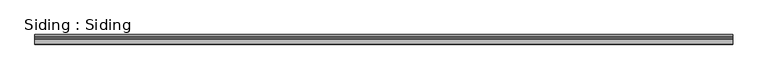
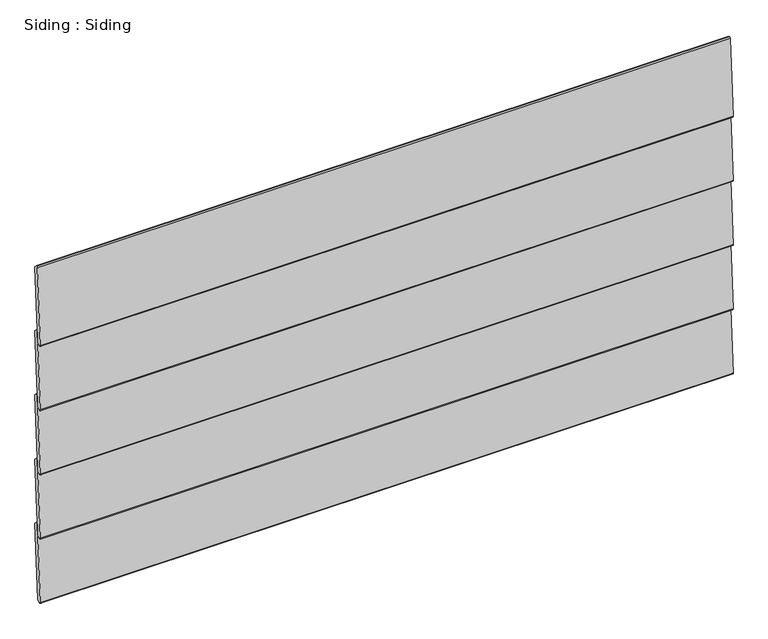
"""IFC4 building model written with IfcOpenShell, lengths in millimetres: proxy geometry, Siding : Siding."""

import ifcopenshell
import ifcopenshell.guid

model = None  # the IFC model being written
_history = None  # IfcOwnerHistory: only IFC2X3 demands one
_inside = {}  # id of a spatial element -> (the spatial element, [elements in it])
_under = {}  # id of a project, library or spatial element -> (it, [spatial elements below it])
_declared = {}  # id of a project -> (the project, [libraries it declares])
_typed = {}  # id of a type object -> (the type object, [elements of that type])
_made_of = {}  # id of a material, layer set ... -> (it, [elements and type objects made of it])


def new_model(schema):
    """Start an empty IFC model of exactly this schema.

    Asked for "IFC4X3", IfcOpenShell would pick the latest addendum, in which some entities
    have other attributes; the version numbers below select the first issue.
    IFC2X3 requires an IfcOwnerHistory on every rooted entity: one is made here for all.
    """
    global model, _history
    if schema == "IFC4X3":
        model = ifcopenshell.file(schema_version=(4, 3, 0, 0))
    else:
        model = ifcopenshell.file(schema=schema)
    _inside.clear()
    _under.clear()
    _declared.clear()
    _typed.clear()
    _made_of.clear()
    _history = None
    if model.schema == "IFC2X3":
        org = make("IfcOrganization", Name="unknown")
        user = make(
            "IfcPersonAndOrganization",
            ThePerson=make("IfcPerson", FamilyName="unknown"),
            TheOrganization=org,
        )
        app = make(
            "IfcApplication",
            ApplicationDeveloper=org,
            Version="unknown",
            ApplicationFullName="unknown",
            ApplicationIdentifier="unknown",
        )
        _history = make(
            "IfcOwnerHistory",
            OwningUser=user,
            OwningApplication=app,
            ChangeAction="ADDED",
            CreationDate=0,
        )
    return model


def make(cls, **values):
    """One entity of the class cls with the attributes given. An attribute that is None is left unset."""
    return model.create_entity(
        cls, **{name: value for name, value in values.items() if value is not None}
    )


def rooted(cls, **values):
    """An entity with a GlobalId (a new one), such as an element, a storey or a relation."""
    return make(cls, GlobalId=ifcopenshell.guid.new(), OwnerHistory=_history, **values)


def si_unit(unit_type, name, prefix=None):
    """IfcSIUnit, for example si_unit("LENGTHUNIT", "METRE", prefix="MILLI")."""
    return make("IfcSIUnit", UnitType=unit_type, Prefix=prefix, Name=name)


def assignment(units):
    """IfcUnitAssignment: the units of a project."""
    return None if units is None else make("IfcUnitAssignment", Units=units)


def point(xyz):
    """IfcCartesianPoint."""
    return None if xyz is None else make("IfcCartesianPoint", Coordinates=xyz)


def direction(xyz):
    """IfcDirection."""
    return None if xyz is None else make("IfcDirection", DirectionRatios=xyz)


def frame(location, z_axis=None, x_axis=None):
    """IfcAxis2Placement3D, a coordinate frame: its origin and axes. An axis left out is left unset."""
    return make(
        "IfcAxis2Placement3D",
        Location=point(location),
        Axis=direction(z_axis),
        RefDirection=direction(x_axis),
    )


def frame_2d(location, x_axis=None):
    """IfcAxis2Placement2D, a coordinate frame in the plane: its origin and x axis."""
    return make(
        "IfcAxis2Placement2D", Location=point(location), RefDirection=direction(x_axis)
    )


def origin():
    """The frame at (0, 0, 0) with its axes left unset."""
    return frame((0.0, 0.0, 0.0))


def place(relative_to, where):
    """IfcLocalPlacement: puts the frame where relative to a parent placement (None: the world)."""
    return make(
        "IfcLocalPlacement", PlacementRelTo=relative_to, RelativePlacement=where
    )


def context(
    kind, dimensions, precision=None, world=None, true_north=None, identifier=None
):
    """IfcGeometricRepresentationContext, for example the 3D "Model" context."""
    return make(
        "IfcGeometricRepresentationContext",
        ContextIdentifier=identifier,
        ContextType=kind,
        CoordinateSpaceDimension=dimensions,
        Precision=precision,
        WorldCoordinateSystem=world,
        TrueNorth=true_north,
    )


def project(units=None, contexts=None):
    """IfcProject with its units and contexts."""
    return rooted(
        "IfcProject",
        Name="project",
        RepresentationContexts=contexts,
        UnitsInContext=assignment(units),
    )


def spatial(cls, under=None, at=None, **own):
    """A site, building, storey or space (cls), placed at a placement, below another one or the project."""
    s = rooted(cls, ObjectPlacement=at, **own)
    if under is not None:
        _under.setdefault(under.id(), (under, []))[1].append(s)
    return s


def polyline(points):
    """IfcPolyline through the points."""
    return make("IfcPolyline", Points=[point(p) for p in points])


def circle_curve(where, radius):
    """IfcCircle in the frame where."""
    return make("IfcCircle", Position=where, Radius=radius)


def trimmed(basis, trim1, trim2, sense, master):
    """IfcTrimmedCurve: the piece of a basis curve between two trims."""
    return make(
        "IfcTrimmedCurve",
        BasisCurve=basis,
        Trim1=trim1,
        Trim2=trim2,
        SenseAgreement=sense,
        MasterRepresentation=master,
    )


def segment(curve, same_sense, transition):
    """IfcCompositeCurveSegment."""
    return make(
        "IfcCompositeCurveSegment",
        Transition=transition,
        SameSense=same_sense,
        ParentCurve=curve,
    )


def composite_curve(segments, self_intersect=None):
    """IfcCompositeCurve: segments joined end to end."""
    return make("IfcCompositeCurve", Segments=segments, SelfIntersect=self_intersect)


def outline(outer, holes=None, kind="AREA"):
    """IfcArbitraryClosedProfileDef: a profile drawn as a closed curve; with holes, ...WithVoids."""
    if holes is None:
        return make("IfcArbitraryClosedProfileDef", ProfileType=kind, OuterCurve=outer)
    return make(
        "IfcArbitraryProfileDefWithVoids",
        ProfileType=kind,
        OuterCurve=outer,
        InnerCurves=holes,
    )


def extrude(swept, where, along, depth):
    """IfcExtrudedAreaSolid: the profile swept, set in the frame where, extruded along a direction by depth."""
    return make(
        "IfcExtrudedAreaSolid",
        SweptArea=swept,
        Position=where,
        ExtrudedDirection=direction(along),
        Depth=depth,
    )


def shape(context_of_items, identifier, shape_type, items):
    """IfcShapeRepresentation: the items that make up one representation, for example the "Body"."""
    return make(
        "IfcShapeRepresentation",
        ContextOfItems=context_of_items,
        RepresentationIdentifier=identifier,
        RepresentationType=shape_type,
        Items=items,
    )


def source(mapping_origin, context_of_items, identifier, shape_type, items):
    """IfcRepresentationMap: a shape defined once, which mapped items show again and again."""
    return make(
        "IfcRepresentationMap",
        MappingOrigin=mapping_origin,
        MappedRepresentation=shape(context_of_items, identifier, shape_type, items),
    )


def transform(
    local_origin,
    x_axis=None,
    y_axis=None,
    z_axis=None,
    scale=None,
    scale2=None,
    scale3=None,
    uniform=True,
):
    """IfcCartesianTransformationOperator3D, or its non-uniform kind. x_axis, y_axis, z_axis: its Axis1, 2, 3."""
    if uniform:
        return make(
            "IfcCartesianTransformationOperator3D",
            Axis1=direction(x_axis),
            Axis2=direction(y_axis),
            LocalOrigin=point(local_origin),
            Scale=scale,
            Axis3=direction(z_axis),
        )
    return make(
        "IfcCartesianTransformationOperator3DnonUniform",
        Axis1=direction(x_axis),
        Axis2=direction(y_axis),
        LocalOrigin=point(local_origin),
        Scale=scale,
        Axis3=direction(z_axis),
        Scale2=scale2,
        Scale3=scale3,
    )


def mapped(mapping_source, mapping_target):
    """IfcMappedItem: shows the shape of a source again, moved by a transform."""
    return make(
        "IfcMappedItem", MappingSource=mapping_source, MappingTarget=mapping_target
    )


def made_of(thing, what):
    """Note that an element or type object is made of a material, layer set ...; save() writes the relation."""
    if what is not None:
        _made_of.setdefault(what.id(), (what, []))[1].append(thing)
    return thing


def element(
    cls,
    number,
    at=None,
    inside=None,
    cuts=None,
    type_object=None,
    material=None,
    context=None,
    identifier="Body",
    shape_type=None,
    held_by="IfcProductDefinitionShape",
    body=None,
    shapes=None,
    **own,
):
    """One element of the class cls, such as IfcWall. Its Tag is "e" and its number.

    at: its placement. inside: the storey or other place that contains it. cuts: it is an
    opening in that element (IfcRelVoidsElement). A single representation is given by context,
    identifier, shape_type and body (its items); several are given by shapes. held_by: the class
    of the entity that holds the representations. save() writes the other relations.
    """
    e = rooted(cls, Tag="e%d" % number, ObjectPlacement=at, **own)
    if body is not None:
        shapes = [shape(context, identifier, shape_type, body)]
    if shapes is not None:
        e.Representation = make(held_by, Representations=shapes)
    if inside is not None:
        _inside.setdefault(inside.id(), (inside, []))[1].append(e)
    if cuts is not None:
        rooted(
            "IfcRelVoidsElement", RelatingBuildingElement=cuts, RelatedOpeningElement=e
        )
    if type_object is not None:
        _typed.setdefault(type_object.id(), (type_object, []))[1].append(e)
    return made_of(e, material)


def aggregate(whole, parts):
    """IfcRelAggregates: a whole, such as a stair, and the parts it consists of."""
    return rooted("IfcRelAggregates", RelatingObject=whole, RelatedObjects=parts)


def save(model, path):
    """Write the relations noted so far, then the file.

    IfcRelAggregates (storeys below a building ...), IfcRelContainedInSpatialStructure (elements
    in a storey), IfcRelDefinesByType, IfcRelAssociatesMaterial and IfcRelDeclares: one each for
    every whole, place, type object, material and project.
    """
    for whole, parts in _under.values():
        aggregate(whole, parts)
    for where, things in _inside.values():
        rooted(
            "IfcRelContainedInSpatialStructure",
            RelatedElements=things,
            RelatingStructure=where,
        )
    for kind, things in _typed.values():
        rooted("IfcRelDefinesByType", RelatedObjects=things, RelatingType=kind)
    for what, things in _made_of.values():
        rooted("IfcRelAssociatesMaterial", RelatedObjects=things, RelatingMaterial=what)
    for by, libraries in _declared.values():
        rooted("IfcRelDeclares", RelatingContext=by, RelatedDefinitions=libraries)
    model.write(path)


def siding_siding_1389b54d(model_context):
    return source(origin(), model_context, "Body", "SweptSolid", [
        extrude(outline(composite_curve([segment(trimmed(circle_curve(frame_2d((33663.6718498, 613.6895863)), 2.1075694), [point((33661.5781282, 613.9307891))], [point((33663.7040621, 615.7969095))], False, "CARTESIAN"), True, "CONTINUOUS"), segment(polyline([(33663.7040621, 615.7969095), (33665.7000892, 615.6670028), (33669.43233, 611.4151351), (33660.3182392, 471.3764062), (33656.0663715, 467.6441654), (33654.0703444, 467.7740721)]), True, "CONTINUOUS"), segment(trimmed(circle_curve(frame_2d((33654.3140531, 469.8699934)), 2.1100426), [point((33654.0703444, 467.7740721))], [point((33652.204224, 469.900006))], False, "CARTESIAN"), True, "CONTINUOUS"), segment(polyline([(33652.204224, 469.900006), (33661.5781282, 613.9307891)]), True, "CONTINUOUS")], self_intersect=False)), frame((-5100.4179718, 0.0, 0.0), z_axis=(1.0, 0.0, 0.0), x_axis=(0.0, 1.0, 0.0)), (0.0, 0.0, 1.0), 1257.3),
        extrude(outline(composite_curve([segment(trimmed(circle_curve(frame_2d((33663.6718498, 490.4934983)), 2.1075694), [point((33661.5781282, 490.7347011))], [point((33663.7040621, 492.6008215))], False, "CARTESIAN"), True, "CONTINUOUS"), segment(polyline([(33663.7040621, 492.6008215), (33665.7000892, 492.4709148), (33669.43233, 488.2190471), (33660.3182392, 348.1803182), (33656.0663715, 344.4480774), (33654.0703444, 344.5779842)]), True, "CONTINUOUS"), segment(trimmed(circle_curve(frame_2d((33654.3140531, 346.6739054)), 2.1100426), [point((33654.0703444, 344.5779842))], [point((33652.204224, 346.703918))], False, "CARTESIAN"), True, "CONTINUOUS"), segment(polyline([(33652.204224, 346.703918), (33661.5781282, 490.7347011)]), True, "CONTINUOUS")], self_intersect=False)), frame((-5100.4179718, 0.0, 0.0), z_axis=(1.0, 0.0, 0.0), x_axis=(0.0, 1.0, 0.0)), (0.0, 0.0, 1.0), 1257.3),
        extrude(outline(composite_curve([segment(trimmed(circle_curve(frame_2d((33663.6718498, 367.2974103)), 2.1075694), [point((33661.5781282, 367.5386131))], [point((33663.7040621, 369.4047335))], False, "CARTESIAN"), True, "CONTINUOUS"), segment(polyline([(33663.7040621, 369.4047335), (33665.7000892, 369.2748268), (33669.43233, 365.0229591), (33660.3182392, 224.9842302), (33656.0663715, 221.2519894), (33654.0703444, 221.3818962)]), True, "CONTINUOUS"), segment(trimmed(circle_curve(frame_2d((33654.3140531, 223.4778174)), 2.1100426), [point((33654.0703444, 221.3818962))], [point((33652.204224, 223.50783))], False, "CARTESIAN"), True, "CONTINUOUS"), segment(polyline([(33652.204224, 223.50783), (33661.5781282, 367.5386131)]), True, "CONTINUOUS")], self_intersect=False)), frame((-5100.4179718, 0.0, 0.0), z_axis=(1.0, 0.0, 0.0), x_axis=(0.0, 1.0, 0.0)), (0.0, 0.0, 1.0), 1257.3),
        extrude(outline(composite_curve([segment(trimmed(circle_curve(frame_2d((33663.6718498, 244.1013223)), 2.1075694), [point((33661.5781282, 244.3425251))], [point((33663.7040621, 246.2086455))], False, "CARTESIAN"), True, "CONTINUOUS"), segment(polyline([(33663.7040621, 246.2086455), (33665.7000892, 246.0787388), (33669.43233, 241.8268711), (33660.3182392, 101.7881423), (33656.0663715, 98.0559014), (33654.0703444, 98.1858082)]), True, "CONTINUOUS"), segment(trimmed(circle_curve(frame_2d((33654.3140531, 100.2817294)), 2.1100426), [point((33654.0703444, 98.1858082))], [point((33652.204224, 100.311742))], False, "CARTESIAN"), True, "CONTINUOUS"), segment(polyline([(33652.204224, 100.311742), (33661.5781282, 244.3425251)]), True, "CONTINUOUS")], self_intersect=False)), frame((-5100.4179718, 0.0, 0.0), z_axis=(1.0, 0.0, 0.0), x_axis=(0.0, 1.0, 0.0)), (0.0, 0.0, 1.0), 1257.3),
        extrude(outline(composite_curve([segment(trimmed(circle_curve(frame_2d((33663.6718498, 120.9052343)), 2.1075694), [point((33661.5781282, 121.1464371))], [point((33663.7040621, 123.0125575))], False, "CARTESIAN"), True, "CONTINUOUS"), segment(polyline([(33663.7040621, 123.0125575), (33665.7000892, 122.8826508), (33669.43233, 118.6307831), (33660.3182392, -21.4079457), (33656.0663715, -25.1401866), (33654.0703444, -25.0102798)]), True, "CONTINUOUS"), segment(trimmed(circle_curve(frame_2d((33654.3140531, -22.9143586)), 2.1100426), [point((33654.0703444, -25.0102798))], [point((33652.204224, -22.884346))], False, "CARTESIAN"), True, "CONTINUOUS"), segment(polyline([(33652.204224, -22.884346), (33661.5781282, 121.1464371)]), True, "CONTINUOUS")], self_intersect=False)), frame((-5100.4179718, 0.0, 0.0), z_axis=(1.0, 0.0, 0.0), x_axis=(0.0, 1.0, 0.0)), (0.0, 0.0, 1.0), 1257.3),
    ])


if __name__ == "__main__":
    model = new_model("IFC4")
    model_context = context("Model", 3, world=origin())
    ifc_project = project(units=[si_unit("LENGTHUNIT", "METRE", prefix="MILLI")], contexts=[model_context])
    site = spatial("IfcSite", under=ifc_project)
    building = spatial("IfcBuilding", under=site)
    placement = place(None, origin())
    siding_siding_shape = siding_siding_1389b54d(model_context)
    element("IfcBuildingElementProxy", 1, Name="Siding : Siding", ObjectType="Siding : Siding", at=placement, inside=building, context=model_context, shape_type="MappedRepresentation", body=[
        mapped(siding_siding_shape, transform((0.0, 0.0, 0.0), x_axis=(1.0, 0.0, 0.0), y_axis=(0.0, 1.0, 0.0), z_axis=(0.0, 0.0, 1.0))),
    ])
    save(model, "model.ifc")
